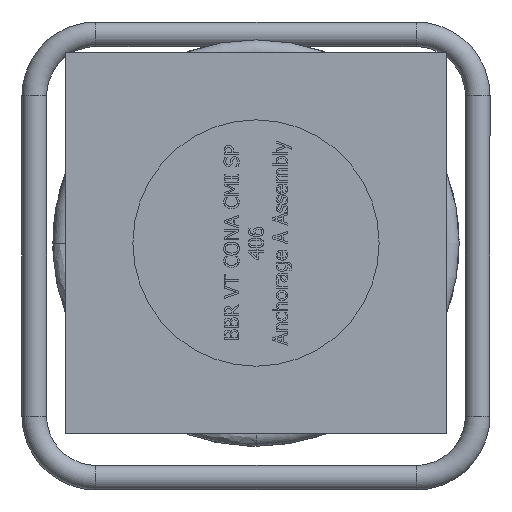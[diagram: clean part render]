
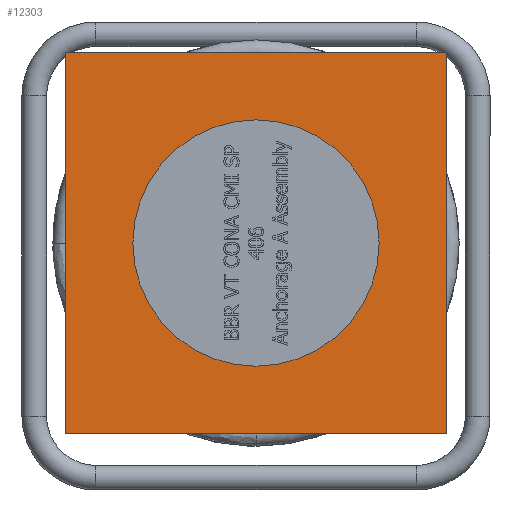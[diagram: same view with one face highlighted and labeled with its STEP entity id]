
A CAD part, left-side view. The second image highlights one B-rep face of the part: STEP entity #12303.
In plain terms, the highlighted planar face has unit normal (-1, 0, 0).
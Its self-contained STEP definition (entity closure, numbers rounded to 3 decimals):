
#63=CIRCLE('',#12621,50.);
#214=FACE_BOUND('',#2456,.T.);
#1715=FACE_OUTER_BOUND('',#2455,.T.);
#2455=EDGE_LOOP('',(#10681,#10682,#10683,#10684));
#2456=EDGE_LOOP('',(#10685));
#3506=LINE('',#23682,#4547);
#3510=LINE('',#23689,#4551);
#3513=LINE('',#23694,#4554);
#3515=LINE('',#23697,#4556);
#4547=VECTOR('',#14561,155.);
#4551=VECTOR('',#14567,155.);
#4554=VECTOR('',#14572,155.);
#4556=VECTOR('',#14576,155.);
#5616=VERTEX_POINT('',#21499);
#5673=VERTEX_POINT('',#23680);
#5674=VERTEX_POINT('',#23681);
#5676=VERTEX_POINT('',#23688);
#5677=VERTEX_POINT('',#23693);
#7274=EDGE_CURVE('',#5616,#5616,#63,.T.);
#7340=EDGE_CURVE('',#5673,#5674,#3506,.T.);
#7344=EDGE_CURVE('',#5674,#5676,#3510,.T.);
#7347=EDGE_CURVE('',#5676,#5677,#3513,.T.);
#7349=EDGE_CURVE('',#5677,#5673,#3515,.T.);
#10681=ORIENTED_EDGE('',*,*,#7349,.T.);
#10682=ORIENTED_EDGE('',*,*,#7340,.T.);
#10683=ORIENTED_EDGE('',*,*,#7344,.T.);
#10684=ORIENTED_EDGE('',*,*,#7347,.T.);
#10685=ORIENTED_EDGE('',*,*,#7274,.T.);
#11021=PLANE('',#12716);
#12303=ADVANCED_FACE('',(#1715,#214),#11021,.T.);
#12621=AXIS2_PLACEMENT_3D('',#21500,#14371,#14372);
#12716=AXIS2_PLACEMENT_3D('',#23698,#14577,#14578);
#14371=DIRECTION('center_axis',(1.,0.,0.));
#14372=DIRECTION('ref_axis',(0.,0.,
1.));
#14561=DIRECTION('',(0.,0.,-1.));
#14567=DIRECTION('',(0.,-1.,0.));
#14572=DIRECTION('',(0.,0.,1.));
#14576=DIRECTION('',(0.,1.,0.));
#14577=DIRECTION('center_axis',(-1.,0.,0.));
#14578=DIRECTION('ref_axis',(0.,0.,-1.));
#21499=CARTESIAN_POINT('',(-112.151,0.,-44.747));
#21500=CARTESIAN_POINT('Origin',(-112.151,0.,
5.253));
#23680=CARTESIAN_POINT('',(-112.151,77.5,82.753));
#23681=CARTESIAN_POINT('',(-112.151,77.5,-72.247));
#23682=CARTESIAN_POINT('',(-112.151,77.5,82.753));
#23688=CARTESIAN_POINT('',(-112.151,-77.5,-72.247));
#23689=CARTESIAN_POINT('',(-112.151,77.5,-72.247));
#23693=CARTESIAN_POINT('',(-112.151,-77.5,82.753));
#23694=CARTESIAN_POINT('',(-112.151,-77.5,-72.247));
#23697=CARTESIAN_POINT('',(-112.151,-77.5,82.753));
#23698=CARTESIAN_POINT('Origin',(-112.151,0.,
5.253));
